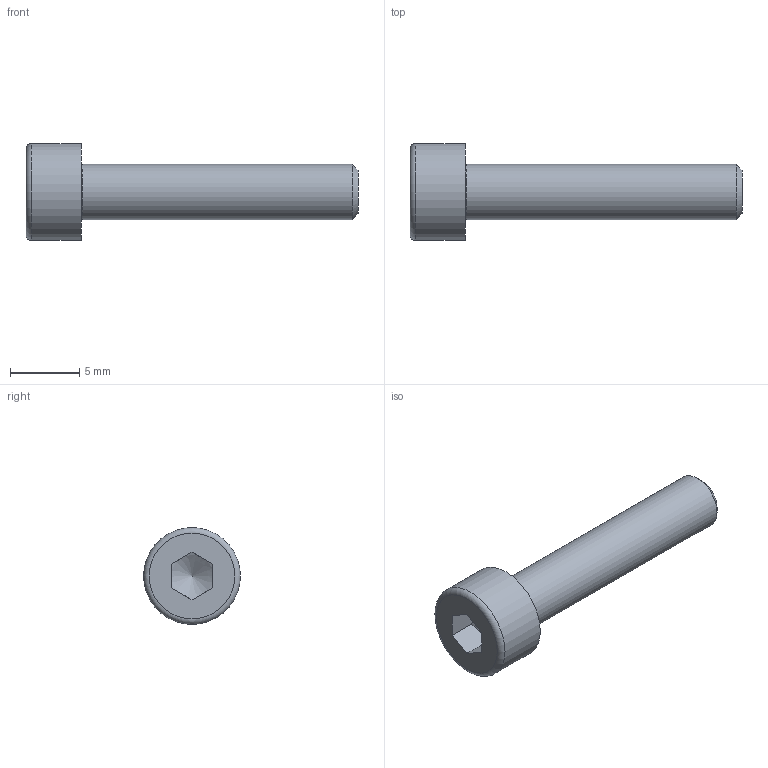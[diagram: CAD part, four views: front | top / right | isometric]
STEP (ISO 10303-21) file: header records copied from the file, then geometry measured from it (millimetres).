
FILE_DESCRIPTION(/* description */ ('6각머리 태핑 나사'),/* implementation_level */ '2;1');
FILE_NAME(/* name */ '',/* time_stamp */ '2026-04-27T11:39:48+09:00',/* author */ ('jhkim'),/* organization */ (''),/* preprocessor_version */ 'ST-DEVELOPER v20.1',/* originating_system */ 'Autodesk Inventor 2027',/* authorisation */ '');
FILE_SCHEMA (('AUTOMOTIVE_DESIGN { 1 0 10303 214 3 1 1 }'));
Length unit declared in the file: millimetre
Products named in the file (1): 6각 구멍붙이 볼트 
M4x20
Bounding box: 24 x 7 x 7 mm (x, y, z)
Volume: 384.8 mm3; surface area: 431.4 mm2
Topology: 1 solids, 1 shells, 15 faces, 36 edges, 24 vertices
Faces by surface type: plane 9, torus 2, cylinder 2, cone 2
Full cylindrical faces by diameter (mm): 4 x1, 7 x1
Entity records: 473 total; most frequent: CARTESIAN_POINT 89, DIRECTION 72, ORIENTED_EDGE 70, EDGE_CURVE 35, AXIS2_PLACEMENT_3D 28, VERTEX_POINT 24, EDGE_LOOP 17, LINE 16
